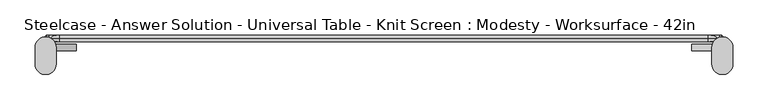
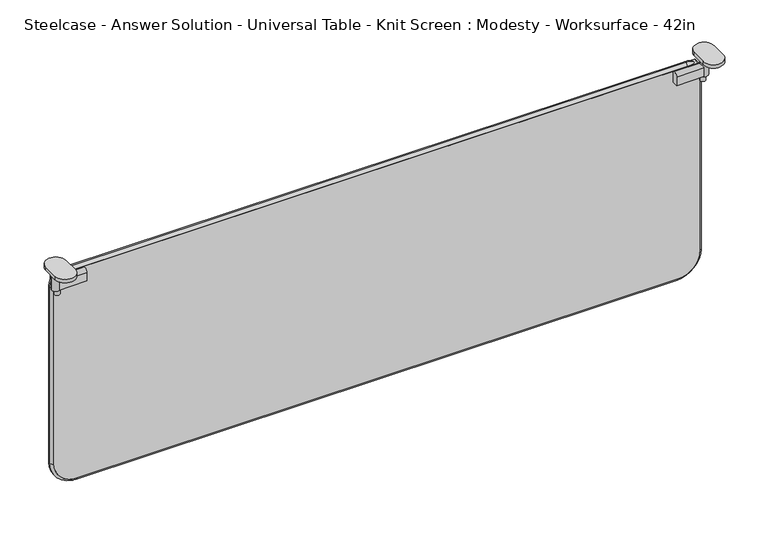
"""IFC4 building model written with IfcOpenShell, lengths in millimetres: furniture geometry, Steelcase - Answer Solution - Universal Table - Knit Screen : Modesty - Worksurface - 42in."""

from ifc_helpers import new_model, si_unit, point, frame, frame_2d, origin, place, context, project, spatial, polyline, circle_curve, ellipse_curve, trimmed, segment, composite_curve, outline, extrude, source, transform, mapped, element, save
from ifc_brep_helpers import plane_surface, cylinder_surface, revolved_surface, advanced_brep


def steelcase_answer_solution_universal_table_knit_screen_da2b557c(model_context):
    return source(origin(), model_context, "Body", "SolidModel", [
        extrude(outline(composite_curve([segment(polyline([(-29.128946, 652.4216837), (-29.128946, 665.7829841)]), True, "CONTINUOUS"), segment(trimmed(circle_curve(frame_2d((-24.4350465, 665.7829841)), 4.6938995), [point((-29.128946, 665.7829841))], [point((-19.7411469, 665.7829841))], False, "CARTESIAN"), True, "CONTINUOUS"), segment(polyline([(-19.7411469, 665.7829841), (-19.7411469, 652.4216837), (-29.128946, 652.4216837)]), True, "CONTINUOUS")], self_intersect=False)), frame((969.0167228, 0.0, 0.0), z_axis=(1.0, 0.0, 0.0), x_axis=(0.0, 1.0, 0.0)), (0.0, 0.0, 1.0), 43.5285515),
        extrude(outline(composite_curve([segment(trimmed(circle_curve(frame_2d((1010.6143327, -24.4352196)), 3.96875), [point((1014.5830827, -24.4352196))], [point((1006.6455827, -24.4352196))], False, "CARTESIAN"), True, "CONTINUOUS"), segment(trimmed(circle_curve(frame_2d((1010.6143327, -24.4352196)), 3.96875), [point((1006.6455827, -24.4352196))], [point((1014.5830827, -24.4352196))], False, "CARTESIAN"), True, "CONTINUOUS")], self_intersect=False)), frame((0.0, 0.0, 644.3415626), z_axis=(0.0, 0.0, 1.0), x_axis=(1.0, 0.0, 0.0)), (0.0, 0.0, 1.0), 8.0801211),
        extrude(outline(composite_curve([segment(trimmed(circle_curve(frame_2d((1012.5452743, -24.4352196)), 5.8800133), [point((1018.4252876, -24.4352196))], [point((1006.665261, -24.4352196))], False, "CARTESIAN"), True, "CONTINUOUS"), segment(trimmed(circle_curve(frame_2d((1012.5452743, -24.4352196)), 5.8800133), [point((1006.665261, -24.4352196))], [point((1018.4252876, -24.4352196))], False, "CARTESIAN"), True, "CONTINUOUS")], self_intersect=False)), frame((0.0, 0.0, 652.4216837), z_axis=(0.0, 0.0, 1.0), x_axis=(1.0, 0.0, 0.0)), (0.0, 0.0, 1.0), 34.3007611),
        extrude(outline(composite_curve([segment(polyline([(1027.601332, -24.6349615), (1027.601332, -48.0866189)]), True, "CONTINUOUS"), segment(trimmed(circle_curve(frame_2d((1012.545565, -48.0866189)), 15.0557671), [point((1027.601332, -48.0866189))], [point((997.4897979, -48.0866189))], False, "CARTESIAN"), True, "CONTINUOUS"), segment(polyline([(997.4897979, -48.0866189), (997.4897979, -24.6349615)]), True, "CONTINUOUS"), segment(trimmed(circle_curve(frame_2d((1012.545565, -24.6349615)), 15.0557671), [point((997.4897979, -24.6349615))], [point((1027.601332, -24.6349615))], False, "CARTESIAN"), True, "CONTINUOUS")], self_intersect=False)), frame((0.0, 0.0, 686.7224448), z_axis=(0.0, 0.0, 1.0), x_axis=(1.0, 0.0, 0.0)), (0.0, 0.0, 1.0), 5.4275552),
        extrude(outline(composite_curve([segment(polyline([(-29.128946, 652.4216837), (-29.128946, 665.7829841)]), True, "CONTINUOUS"), segment(trimmed(circle_curve(frame_2d((-24.4350465, 665.7829841)), 4.6938995), [point((-29.128946, 665.7829841))], [point((-19.7411469, 665.7829841))], False, "CARTESIAN"), True, "CONTINUOUS"), segment(polyline([(-19.7411469, 665.7829841), (-19.7411469, 652.4216837), (-29.128946, 652.4216837)]), True, "CONTINUOUS")], self_intersect=False)), frame((47.6108911, 0.0, 0.0), z_axis=(1.0, 0.0, 0.0), x_axis=(0.0, 1.0, 0.0)), (0.0, 0.0, 1.0), 43.5285515),
        extrude(outline(composite_curve([segment(trimmed(circle_curve(frame_2d((49.5418327, -24.4352196)), 3.96875), [point((45.5730827, -24.4352196))], [point((53.5105827, -24.4352196))], False, "CARTESIAN"), True, "CONTINUOUS"), segment(trimmed(circle_curve(frame_2d((49.5418327, -24.4352196)), 3.96875), [point((53.5105827, -24.4352196))], [point((45.5730827, -24.4352196))], False, "CARTESIAN"), True, "CONTINUOUS")], self_intersect=False)), frame((0.0, 0.0, 644.3415626), z_axis=(0.0, 0.0, 1.0), x_axis=(1.0, 0.0, 0.0)), (0.0, 0.0, 1.0), 8.0801211),
        extrude(outline(composite_curve([segment(trimmed(circle_curve(frame_2d((47.6108911, -24.4352196)), 5.8800133), [point((41.7308778, -24.4352196))], [point((53.4909043, -24.4352196))], False, "CARTESIAN"), True, "CONTINUOUS"), segment(trimmed(circle_curve(frame_2d((47.6108911, -24.4352196)), 5.8800133), [point((53.4909043, -24.4352196))], [point((41.7308778, -24.4352196))], False, "CARTESIAN"), True, "CONTINUOUS")], self_intersect=False)), frame((0.0, 0.0, 652.4216837), z_axis=(0.0, 0.0, 1.0), x_axis=(1.0, 0.0, 0.0)), (0.0, 0.0, 1.0), 34.3007611),
        extrude(outline(composite_curve([segment(trimmed(circle_curve(frame_2d((47.6106004, -24.6349615)), 15.0557671), [point((32.5548333, -24.6349615))], [point((62.6663674, -24.6349615))], False, "CARTESIAN"), True, "CONTINUOUS"), segment(polyline([(62.6663674, -24.6349615), (62.6663674, -48.0866189)]), True, "CONTINUOUS"), segment(trimmed(circle_curve(frame_2d((47.6106004, -48.0866189)), 15.0557671), [point((62.6663674, -48.0866189))], [point((32.5548333, -48.0866189))], False, "CARTESIAN"), True, "CONTINUOUS"), segment(polyline([(32.5548333, -48.0866189), (32.5548333, -24.6349615)]), True, "CONTINUOUS")], self_intersect=False)), frame((0.0, 0.0, 686.7224448), z_axis=(0.0, 0.0, 1.0), x_axis=(1.0, 0.0, 0.0)), (0.0, 0.0, 1.0), 5.4275552),
        extrude(outline(composite_curve([segment(trimmed(circle_curve(frame_2d((370.6234529, 977.5969049)), 33.0004615), [point((337.6229913, 977.5969049))], [point((370.6234529, 1010.5973664))], False, "CARTESIAN"), True, "CONTINUOUS"), segment(polyline([(370.6234529, 1010.5973664), (663.9643507, 1010.5973664)]), True, "CONTINUOUS"), segment(trimmed(circle_curve(frame_2d((663.9643507, 1007.7924906)), 2.8048758), [point((663.9643507, 1010.5973664))], [point((666.7692266, 1007.7924906))], False, "CARTESIAN"), True, "CONTINUOUS"), segment(polyline([(666.7692266, 1007.7924906), (666.7692266, 51.8743664)]), True, "CONTINUOUS"), segment(trimmed(circle_curve(frame_2d((664.4536591, 51.8743664)), 2.3155675), [point((666.7692266, 51.8743664))], [point((664.4536591, 49.5587989))], False, "CARTESIAN"), True, "CONTINUOUS"), segment(polyline([(664.4536591, 49.5587989), (371.5400738, 49.5587989)]), True, "CONTINUOUS"), segment(trimmed(circle_curve(frame_2d((371.5400738, 83.4758814)), 33.9170825), [point((371.5400738, 49.5587989))], [point((337.6229913, 83.4758814))], False, "CARTESIAN"), True, "CONTINUOUS"), segment(polyline([(337.6229913, 83.4758814), (337.6229913, 977.5969049)]), True, "CONTINUOUS")], self_intersect=False)), frame((0.0, -16.5783031, 0.0), z_axis=(0.0, 1.0, 0.0), x_axis=(0.0, 0.0, 1.0)), (0.0, 0.0, 1.0), 9.6878455),
        advanced_brep(
        [(45.5730839, -11.7343804, 649.3406591), (66.9873664, -11.7343804, 670.7549416), (66.9873664, -6.8904577, 666.7692266), (49.5587989, -6.8904577, 649.3406591), (49.5587989, -16.5783031, 649.3406591), (66.9873664, -16.5783031, 666.7692266), (49.5587989, -6.8904577, 371.5400738), (45.5730839, -11.7343804, 371.5400738), (49.5587989, -16.5783031, 371.5400738), (83.4758814, -11.7343804, 333.6372763), (83.4758814, -6.8904577, 337.6229913), (83.4758814, -16.5783031, 337.6229913), (977.5969049, -6.8904577, 337.6229913), (977.5969049, -11.7343804, 333.6372763), (977.5969049, -16.5783031, 337.6229913), (1014.5830815, -11.7343804, 370.6234529), (1010.5973664, -6.8904577, 370.6234529), (1010.5973664, -16.5783031, 370.6234529), (1010.5973664, -6.8904577, 648.8513507), (1014.5830815, -11.7343804, 648.8513507), (1010.5973664, -16.5783031, 648.8513507), (992.6794906, -11.7343804, 670.7549416), (992.6794906, -6.8904577, 666.7692266), (992.6794906, -16.5783031, 666.7692266)],
        [
            (0, 1, circle_curve(frame((66.9873664, -11.7343804, 649.3406591), z_axis=(0.0, 1.0, 0.0), x_axis=(0.0, 0.0, 1.0)), 21.4142825)),
            (1, 2, circle_curve(frame((66.9873664, -11.7343804, 665.8186238), z_axis=(-1.0, 0.0, 0.0), x_axis=(0.0, 0.0, 1.0)), 4.9363178)),
            (2, 3, circle_curve(frame((66.9873664, -6.8904577, 649.3406591), z_axis=(0.0, -1.0, 0.0), x_axis=(0.0, 0.0, 1.0)), 17.4285675)),
            (3, 0, circle_curve(frame((50.5094016, -11.7343804, 649.3406591), z_axis=(0.0, 0.0, 1.0), x_axis=(-1.0, 0.0, 0.0)), 4.9363178)),
            (4, 5, circle_curve(frame((66.9873664, -16.5783031, 649.3406591), z_axis=(0.0, 1.0, 0.0), x_axis=(0.0, 0.0, 1.0)), 17.4285675)),
            (5, 1, circle_curve(frame((66.9873664, -11.7343804, 665.8186238), z_axis=(-1.0, 0.0, 0.0), x_axis=(0.0, 0.0, 1.0)), 4.9363178)),
            (0, 4, circle_curve(frame((50.5094016, -11.7343804, 649.3406591), z_axis=(0.0, 0.0, 1.0), x_axis=(-1.0, 0.0, 0.0)), 4.9363178)),
            (2, 5),
            (4, 3),
            (3, 6),
            (6, 7, circle_curve(frame((50.5094016, -11.7343804, 371.5400738), z_axis=(0.0, 0.0, 1.0), x_axis=(-1.0, 0.0, 0.0)), 4.9363178)),
            (7, 0),
            (7, 8, circle_curve(frame((50.5094016, -11.7343804, 371.5400738), z_axis=(0.0, 0.0, 1.0), x_axis=(-1.0, 0.0, 0.0)), 4.9363178)),
            (8, 4),
            (8, 6),
            (9, 7, circle_curve(frame((83.4758814, -11.7343804, 371.5400738), z_axis=(0.0, 1.0, 0.0), x_axis=(-1.0, 0.0, 0.0)), 37.9027975)),
            (6, 10, circle_curve(frame((83.4758814, -6.8904577, 371.5400738), z_axis=(0.0, -1.0, 0.0), x_axis=(-1.0, 0.0, 0.0)), 33.9170825)),
            (10, 9, circle_curve(frame((83.4758814, -11.7343804, 338.573594), z_axis=(-1.0, 0.0, 0.0), x_axis=(0.0, 0.0, -1.0)), 4.9363178)),
            (11, 8, circle_curve(frame((83.4758814, -16.5783031, 371.5400738), z_axis=(0.0, 1.0, 0.0), x_axis=(-1.0, 0.0, 0.0)), 33.9170825)),
            (9, 11, circle_curve(frame((83.4758814, -11.7343804, 338.573594), z_axis=(-1.0, 0.0, 0.0), x_axis=(0.0, 0.0, -1.0)), 4.9363178)),
            (11, 10),
            (10, 12),
            (12, 13, circle_curve(frame((977.5969049, -11.7343804, 338.573594), z_axis=(-1.0, 0.0, 0.0), x_axis=(0.0, 0.0, -1.0)), 4.9363178)),
            (13, 9),
            (13, 14, circle_curve(frame((977.5969049, -11.7343804, 338.573594), z_axis=(-1.0, 0.0, 0.0), x_axis=(0.0, 0.0, -1.0)), 4.9363178)),
            (14, 11),
            (14, 12),
            (15, 13, circle_curve(frame((977.5969049, -11.7343804, 370.6234529), z_axis=(0.0, 1.0, 0.0), x_axis=(0.0, 0.0, -1.0)), 36.9861766)),
            (12, 16, circle_curve(frame((977.5969049, -6.8904577, 370.6234529), z_axis=(0.0, -1.0, 0.0), x_axis=(0.0, 0.0, -1.0)), 33.0004615)),
            (16, 15, circle_curve(frame((1009.6467637, -11.7343804, 370.6234529), z_axis=(0.0, 0.0, -1.0), x_axis=(1.0, 0.0, 0.0)), 4.9363178)),
            (17, 14, circle_curve(frame((977.5969049, -16.5783031, 370.6234529), z_axis=(0.0, 1.0, 0.0), x_axis=(0.0, 0.0, -1.0)), 33.0004615)),
            (15, 17, circle_curve(frame((1009.6467637, -11.7343804, 370.6234529), z_axis=(0.0, 0.0, -1.0), x_axis=(1.0, 0.0, 0.0)), 4.9363178)),
            (17, 16),
            (16, 18),
            (18, 19, circle_curve(frame((1009.6467637, -11.7343804, 648.8513507), z_axis=(0.0, 0.0, -1.0), x_axis=(1.0, 0.0, 0.0)), 4.9363178)),
            (19, 15),
            (19, 20, circle_curve(frame((1009.6467637, -11.7343804, 648.8513507), z_axis=(0.0, 0.0, -1.0), x_axis=(1.0, 0.0, 0.0)), 4.9363178)),
            (20, 17),
            (20, 18),
            (21, 19, circle_curve(frame((992.6794906, -11.7343804, 648.8513507), z_axis=(0.0, 1.0, 0.0), x_axis=(1.0, 0.0, 0.0)), 21.9035909)),
            (18, 22, circle_curve(frame((992.6794906, -6.8904577, 648.8513507), z_axis=(0.0, -1.0, 0.0), x_axis=(1.0, 0.0, 0.0)), 17.9178758)),
            (22, 21, circle_curve(frame((992.6794906, -11.7343804, 665.8186238), z_axis=(1.0, 0.0, 0.0), x_axis=(0.0, 0.0, 1.0)), 4.9363178)),
            (23, 20, circle_curve(frame((992.6794906, -16.5783031, 648.8513507), z_axis=(0.0, 1.0, 0.0), x_axis=(1.0, 0.0, 0.0)), 17.9178758)),
            (21, 23, circle_curve(frame((992.6794906, -11.7343804, 665.8186238), z_axis=(1.0, 0.0, 0.0), x_axis=(0.0, 0.0, 1.0)), 4.9363178)),
            (23, 22),
            (22, 2),
            (1, 21),
            (5, 23),
        ],
        [
            revolved_surface(trimmed(ellipse_curve(frame((66.9873664, -11.7343804, 665.8186238), z_axis=(1.0, 0.0, 0.0), x_axis=(0.0, 0.0, 1.0)), 4.9363178, 4.9363178), [point((66.9873664, -6.8904577, 666.7692266))], [point((66.9873664, -11.7343804, 670.7549416))], True, "CARTESIAN"), (66.9873664, -11.7343804, 649.3406591), (0.0, -1.0, 0.0)),
            revolved_surface(trimmed(ellipse_curve(frame((66.9873664, -11.7343804, 665.8186238), z_axis=(1.0, 0.0, 0.0), x_axis=(0.0, 0.0, 1.0)), 4.9363178, 4.9363178), [point((66.9873664, -11.7343804, 670.7549416))], [point((66.9873664, -16.5783031, 666.7692266))], True, "CARTESIAN"), (66.9873664, -11.7343804, 649.3406591), (0.0, -1.0, 0.0)),
            revolved_surface(polyline([(66.9873664, -16.5783031, 666.7692266), (66.9873664, -6.8904577, 666.7692266)]), (66.9873664, -11.7343804, 649.3406591), (0.0, -1.0, 0.0)),
            cylinder_surface(frame((50.5094016, -11.7343804, 649.3406591), z_axis=(0.0, 0.0, 1.0), x_axis=(-1.0, 0.0, 0.0)), 4.9363178),
            plane_surface(frame((49.5587989, -16.5783031, 649.3406591), z_axis=(1.0, 0.0, 0.0), x_axis=(0.0, 0.0, -1.0))),
            revolved_surface(trimmed(ellipse_curve(frame((50.5094016, -11.7343804, 371.5400738), z_axis=(0.0, 0.0, 1.0), x_axis=(-1.0, 0.0, 0.0)), 4.9363178, 4.9363178), [point((49.5587989, -6.8904577, 371.5400738))], [point((45.5730839, -11.7343804, 371.5400738))], True, "CARTESIAN"), (83.4758814, -11.7343804, 371.5400738), (0.0, -1.0, 0.0)),
            revolved_surface(trimmed(ellipse_curve(frame((50.5094016, -11.7343804, 371.5400738), z_axis=(0.0, 0.0, 1.0), x_axis=(-1.0, 0.0, 0.0)), 4.9363178, 4.9363178), [point((45.5730839, -11.7343804, 371.5400738))], [point((49.5587989, -16.5783031, 371.5400738))], True, "CARTESIAN"), (83.4758814, -11.7343804, 371.5400738), (0.0, -1.0, 0.0)),
            revolved_surface(polyline([(49.558798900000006, -16.5783031, 371.5400738), (49.558798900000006, -6.8904577, 371.5400738)]), (83.4758814, -11.7343804, 371.5400738), (0.0, -1.0, 0.0)),
            cylinder_surface(frame((83.4758814, -11.7343804, 338.573594), z_axis=(-1.0, 0.0, 0.0), x_axis=(0.0, 0.0, -1.0)), 4.9363178),
            plane_surface(frame((83.4758814, -16.5783031, 337.6229913), z_axis=(0.0, 0.0, 1.0), x_axis=(1.0, 0.0, 0.0))),
            revolved_surface(trimmed(ellipse_curve(frame((977.5969049, -11.7343804, 338.573594), z_axis=(-1.0, 0.0, 0.0), x_axis=(0.0, 0.0, -1.0)), 4.9363178, 4.9363178), [point((977.5969049, -6.8904577, 337.6229913))], [point((977.5969049, -11.7343804, 333.6372763))], True, "CARTESIAN"), (977.5969049, -11.7343804, 370.6234529), (0.0, -1.0, 0.0)),
            revolved_surface(trimmed(ellipse_curve(frame((977.5969049, -11.7343804, 338.573594), z_axis=(-1.0, 0.0, 0.0), x_axis=(0.0, 0.0, -1.0)), 4.9363178, 4.9363178), [point((977.5969049, -11.7343804, 333.6372763))], [point((977.5969049, -16.5783031, 337.6229913))], True, "CARTESIAN"), (977.5969049, -11.7343804, 370.6234529), (0.0, -1.0, 0.0)),
            revolved_surface(polyline([(977.5969049, -16.5783031, 337.62299140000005), (977.5969049, -6.8904577, 337.62299140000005)]), (977.5969049, -11.7343804, 370.6234529), (0.0, -1.0, 0.0)),
            cylinder_surface(frame((1009.6467637, -11.7343804, 370.6234529), z_axis=(0.0, 0.0, -1.0), x_axis=(1.0, 0.0, 0.0)), 4.9363178),
            plane_surface(frame((1010.5973664, -16.5783031, 370.6234529), z_axis=(-1.0, 0.0, 0.0), x_axis=(0.0, 0.0, 1.0))),
            revolved_surface(trimmed(ellipse_curve(frame((1009.6467637, -11.7343804, 648.8513507), z_axis=(0.0, 0.0, -1.0), x_axis=(1.0, 0.0, 0.0)), 4.9363178, 4.9363178), [point((1010.5973664, -6.8904577, 648.8513507))], [point((1014.5830815, -11.7343804, 648.8513507))], True, "CARTESIAN"), (992.6794906, -11.7343804, 648.8513507), (0.0, -1.0, 0.0)),
            revolved_surface(trimmed(ellipse_curve(frame((1009.6467637, -11.7343804, 648.8513507), z_axis=(0.0, 0.0, -1.0), x_axis=(1.0, 0.0, 0.0)), 4.9363178, 4.9363178), [point((1014.5830815, -11.7343804, 648.8513507))], [point((1010.5973664, -16.5783031, 648.8513507))], True, "CARTESIAN"), (992.6794906, -11.7343804, 648.8513507), (0.0, -1.0, 0.0)),
            revolved_surface(polyline([(1010.5973664, -16.5783031, 648.8513507), (1010.5973664, -6.8904577, 648.8513507)]), (992.6794906, -11.7343804, 648.8513507), (0.0, -1.0, 0.0)),
            cylinder_surface(frame((992.6794906, -11.7343804, 665.8186238), z_axis=(1.0, 0.0, 0.0), x_axis=(0.0, 0.0, 1.0)), 4.9363178),
            plane_surface(frame((992.6794906, -16.5783031, 666.7692266), z_axis=(0.0, 0.0, -1.0), x_axis=(-1.0, 0.0, 0.0))),
        ],
        [
            (0, [[1, 2, 3, 4]]),
            (1, [[5, 6, -1, 7]]),
            (2, [[-3, 8, -5, 9]]),
            (3, [[-4, 10, 11, 12]]),
            (3, [[-7, -12, 13, 14]]),
            (4, [[-9, -14, 15, -10]]),
            (5, [[16, -11, 17, 18]]),
            (6, [[19, -13, -16, 20]]),
            (7, [[-17, -15, -19, 21]]),
            (8, [[-18, 22, 23, 24]]),
            (8, [[-20, -24, 25, 26]]),
            (9, [[-21, -26, 27, -22]]),
            (10, [[28, -23, 29, 30]]),
            (11, [[31, -25, -28, 32]]),
            (12, [[-29, -27, -31, 33]]),
            (13, [[-30, 34, 35, 36]]),
            (13, [[-32, -36, 37, 38]]),
            (14, [[-33, -38, 39, -34]]),
            (15, [[40, -35, 41, 42]]),
            (16, [[43, -37, -40, 44]]),
            (17, [[-41, -39, -43, 45]]),
            (18, [[-42, 46, -2, 47]]),
            (18, [[-44, -47, -6, 48]]),
            (19, [[-45, -48, -8, -46]]),
        ],
    ),
    ])


if __name__ == "__main__":
    model = new_model("IFC4")
    model_context = context("Model", 3, world=origin())
    ifc_project = project(units=[si_unit("LENGTHUNIT", "METRE", prefix="MILLI")], contexts=[model_context])
    site = spatial("IfcSite", under=ifc_project)
    building = spatial("IfcBuilding", under=site)
    placement = place(None, origin())
    steelcase_answer_solution_universal_table_knit_screen_shape = steelcase_answer_solution_universal_table_knit_screen_da2b557c(model_context)
    element("IfcFurniture", 1, ObjectType="Steelcase - Answer Solution - Universal Table - Knit Screen : Modesty - Worksurface - 42in", at=placement, inside=building, context=model_context, shape_type="MappedRepresentation", body=[
        mapped(steelcase_answer_solution_universal_table_knit_screen_shape, transform((0.0, 0.0, 0.0), x_axis=(1.0, 0.0, 0.0), y_axis=(0.0, 1.0, 0.0), z_axis=(0.0, 0.0, 1.0))),
    ])
    save(model, "model.ifc")
